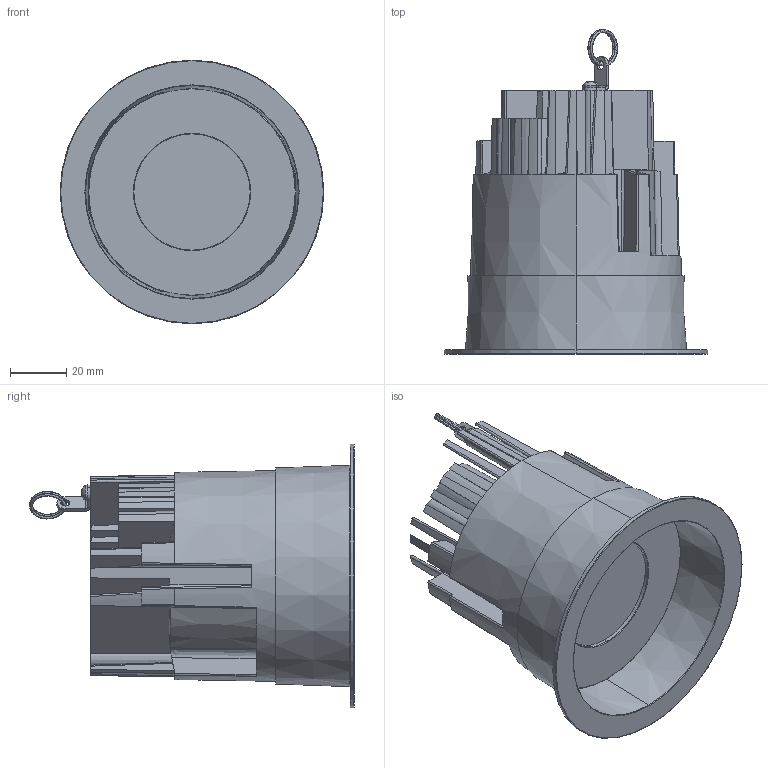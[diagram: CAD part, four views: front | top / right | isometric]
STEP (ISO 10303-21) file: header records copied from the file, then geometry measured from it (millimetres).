
FILE_DESCRIPTION (( 'STEP AP214' ), '1' );
FILE_NAME ('WG-H-PTD3-FA-RBT-RRPH.STEP', '2023-02-16T19:46:53', ( '' ), ( '' ), 'SwSTEP 2.0', 'SolidWorks 2021', '' );
FILE_SCHEMA (( 'AUTOMOTIVE_DESIGN' ));
Length unit declared in the file: inch
Products named in the file (8): 720-10034-300; GDL PLUS heat sink aircraft wire L-bracket; 100 ProTools heat sink aircraft wire loop 2019-09-26; 310-10082-200_310-10082-200; WG-H-PTD3-FA-RBT-RRPH; 720-10058-304; 760-10049-400; WG-CV-PTD3-RRPH-__-_
Assembly tree (7 placements, depth 3):
  WG-H-PTD3-FA-RBT-RRPH
    720-10034-300
    WG-CV-PTD3-RRPH-__-_
      720-10058-304
      760-10049-400
    100 ProTools heat sink aircraft wire loop 2019-09-26
    GDL PLUS heat sink aircraft wire L-bracket
    310-10082-200_310-10082-200
Bounding box: 94 x 115.69 x 94 mm (x, y, z)
Volume: 106694.7 mm3; surface area: 92365.2 mm2
Topology: 6 solids, 6 shells, 579 faces, 1578 edges, 1000 vertices
Faces by surface type: plane 179, cone 154, cylinder 109, bspline 69, torus 37, sphere 31
Entity records: 22202 total; most frequent: CARTESIAN_POINT 7896, ORIENTED_EDGE 3104, DIRECTION 2725, EDGE_CURVE 1552, AXIS2_PLACEMENT_3D 1119, VERTEX_POINT 1000, EDGE_LOOP 614, CIRCLE 598
